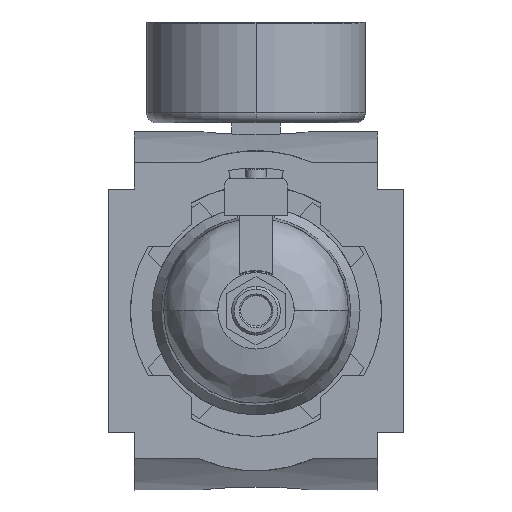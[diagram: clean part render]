
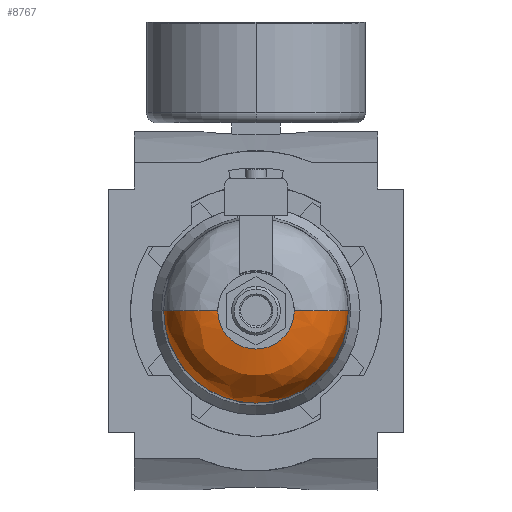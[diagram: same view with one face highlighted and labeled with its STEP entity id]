
A CAD part, front view. The second image highlights one B-rep face of the part: STEP entity #8767.
In plain terms, the highlighted free-form (B-spline) face has degree [3, 3] with [7, 4] control points.
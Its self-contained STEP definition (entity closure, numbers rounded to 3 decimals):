
#6933=CARTESIAN_POINT('',(0.,-131.3,0.));
#6934=DIRECTION('',(0.,1.,0.));
#6935=DIRECTION('',(1.,0.,0.));
#6936=AXIS2_PLACEMENT_3D('',#6933,#6934,#6935);
#6938=CARTESIAN_POINT('',(11.528,-131.2,0.));
#6939=DIRECTION('',(0.,0.,1.));
#6940=DIRECTION('',(-0.035,-0.999,0.));
#6941=AXIS2_PLACEMENT_3D('',#6938,#6939,#6940);
#6943=CARTESIAN_POINT('',(-11.528,-131.2,0.));
#6944=DIRECTION('',(0.,0.,-1.));
#6945=DIRECTION('',(0.035,-0.999,0.));
#6946=AXIS2_PLACEMENT_3D('',#6943,#6944,#6945);
#6948=CARTESIAN_POINT('',(0.,-146.191,0.));
#6949=DIRECTION('',(0.,1.,0.));
#6950=DIRECTION('',(1.,0.,0.));
#6951=AXIS2_PLACEMENT_3D('',#6948,#6949,#6950);
#7606=CARTESIAN_POINT('',(11.,-146.191,0.));
#7607=CARTESIAN_POINT('',(26.528,-131.3,0.));
#7608=VERTEX_POINT('',#7606);
#7609=VERTEX_POINT('',#7607);
#7616=CARTESIAN_POINT('',(-11.,-146.191,0.));
#7617=CARTESIAN_POINT('',(-26.528,-131.3,0.));
#7618=VERTEX_POINT('',#7616);
#7619=VERTEX_POINT('',#7617);
#8729=CARTESIAN_POINT('',(-26.471,-130.82,
1.665));
#8730=CARTESIAN_POINT('',(-26.71,-140.263,
1.68));
#8731=CARTESIAN_POINT('',(-19.906,-146.801,
1.252));
#8732=CARTESIAN_POINT('',(-10.5,-146.166,
0.661));
#8733=CARTESIAN_POINT('',(-27.496,-130.82,
-14.625));
#8734=CARTESIAN_POINT('',(-27.744,-140.263,
-14.757));
#8735=CARTESIAN_POINT('',(-20.677,-146.801,
-10.998));
#8736=CARTESIAN_POINT('',(-10.907,-146.166,
-5.801));
#8737=CARTESIAN_POINT('',(-16.323,-130.82,
-26.524));
#8738=CARTESIAN_POINT('',(-16.47,-140.263,
-26.763));
#8739=CARTESIAN_POINT('',(-12.274,-146.801,
-19.945));
#8740=CARTESIAN_POINT('',(-6.475,-146.166,
-10.521));
#8741=CARTESIAN_POINT('',(0.,-130.82,
-26.524));
#8742=CARTESIAN_POINT('',(0.,-140.263,
-26.763));
#8743=CARTESIAN_POINT('',(0.,-146.801,
-19.945));
#8744=CARTESIAN_POINT('',(0.,-146.166,
-10.521));
#8745=CARTESIAN_POINT('',(16.323,-130.82,
-26.524));
#8746=CARTESIAN_POINT('',(16.47,-140.263,
-26.763));
#8747=CARTESIAN_POINT('',(12.274,-146.801,
-19.945));
#8748=CARTESIAN_POINT('',(6.475,-146.166,
-10.521));
#8749=CARTESIAN_POINT('',(27.496,-130.82,
-14.625));
#8750=CARTESIAN_POINT('',(27.744,-140.263,
-14.757));
#8751=CARTESIAN_POINT('',(20.677,-146.801,
-10.998));
#8752=CARTESIAN_POINT('',(10.907,-146.166,
-5.801));
#8753=CARTESIAN_POINT('',(26.471,-130.82,1.665));
#8754=CARTESIAN_POINT('',(26.71,-140.263,1.68));
#8755=CARTESIAN_POINT('',(19.906,-146.801,1.252));
#8756=CARTESIAN_POINT('',(10.5,-146.166,
0.661));
#8757=(BOUNDED_SURFACE()B_SPLINE_SURFACE(3,3,((#8729,#8730,#8731,#8732),(#8733,
#8734,#8735,#8736),(#8737,#8738,#8739,#8740),(#8741,#8742,#8743,#8744),(#8745,
#8746,#8747,#8748),(#8749,#8750,#8751,#8752),(#8753,#8754,#8755,#8756)),
.UNSPECIFIED.,.F.,.F.,.F.)B_SPLINE_SURFACE_WITH_KNOTS((4,3,4),(4,4),(0.,1.,
2.),(0.,1.),.UNSPECIFIED.)GEOMETRIC_REPRESENTATION_ITEM()RATIONAL_B_SPLINE_SURFACE(((1.419,1.11,1.11,1.419),(
1.12,0.877,0.877,1.12),(
1.12,0.877,0.877,1.12),(
1.419,1.11,1.11,1.419),(
1.12,0.877,0.877,1.12),(
1.12,0.877,0.877,1.12),(
1.419,1.11,1.11,1.419)))REPRESENTATION_ITEM('')SURFACE());
#8759=ORIENTED_EDGE('',*,*,#8758,.T.);
#8760=ORIENTED_EDGE('',*,*,#8724,.T.);
#8762=ORIENTED_EDGE('',*,*,#8761,.F.);
#8764=ORIENTED_EDGE('',*,*,#8763,.F.);
#8765=EDGE_LOOP('',(#8759,#8760,#8762,#8764));
#8766=FACE_OUTER_BOUND('',#8765,.F.);
#8767=ADVANCED_FACE('',(#8766),#8757,.T.);
#6937=CIRCLE('',#6936,26.528);
#6942=CIRCLE('',#6941,15.);
#6947=CIRCLE('',#6946,15.);
#6952=CIRCLE('',#6951,11.);
#8724=EDGE_CURVE('',#7609,#7619,#6937,.T.);
#8758=EDGE_CURVE('',#7608,#7609,#6942,.T.);
#8761=EDGE_CURVE('',#7618,#7619,#6947,.T.);
#8763=EDGE_CURVE('',#7608,#7618,#6952,.T.);
